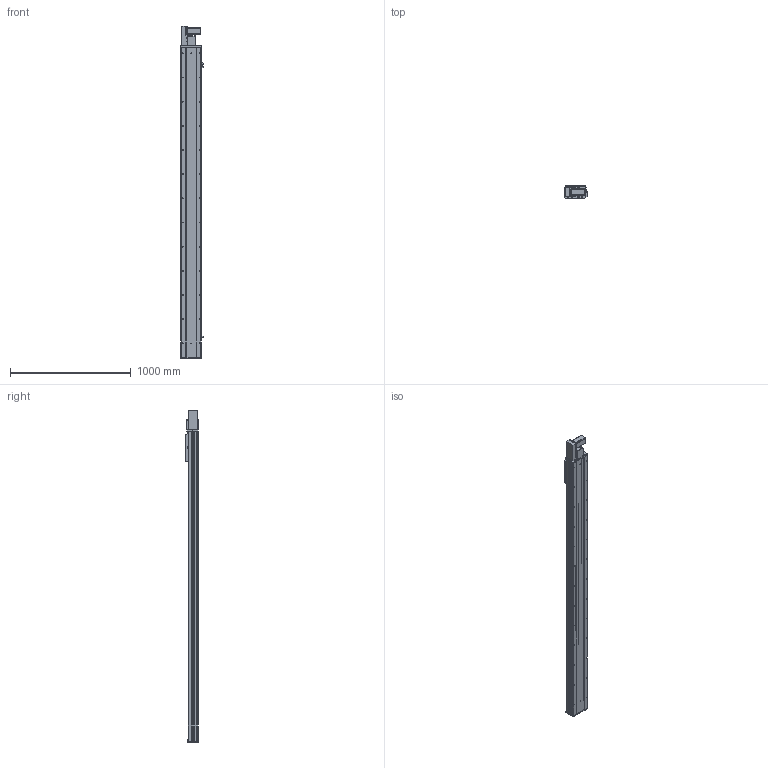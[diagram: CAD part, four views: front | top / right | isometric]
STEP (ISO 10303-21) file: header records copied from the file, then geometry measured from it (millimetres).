
FILE_DESCRIPTION (( 'STEP AP203' ), '1' );
FILE_NAME ('Y170CB-D105-S2250-BL-P400W.STEP', '2020-02-20T01:42:04', ( '微软用户' ), ( '微软中国' ), 'SwSTEP 2.0', 'SolidWorks 2017', '' );
FILE_SCHEMA (( 'CONFIG_CONTROL_DESIGN' ));
Length unit declared in the file: millimetre
Products named in the file (18): Y170CB-D105-S2250-BL-P400W; 70CB--耜裔; 17B-耜蚾蟀諉啣----; 70C-雄赽釱-奻-; 0B-萇儂楊擘啣; 0C--雄赽釱俋欶-170; san松下电机400不带刹车----; 70CB-詩湍--; Y70俋欶BR----; Y100-135俋离換覜ん--; 70CB-掛极-; Y170CB-陔俋离換覜結え---; --70CB --喘謫眊楊擘啣-; 70B喘謫眊----; 70CB-耜裔啣-; Y1埴倛裔; 70C--詩湍揤踡え-; B-源倛裔啣
Assembly tree (21 placements, depth 2):
  Y170CB-D105-S2250-BL-P400W
    B-源倛裔啣
    17B-耜蚾蟀諉啣----
    0B-萇儂楊擘啣
    san松下电机400不带刹车----
    Y70俋欶BR----
    70CB-掛极-
    --70CB --喘謫眊楊擘啣-
    70CB-耜裔啣-  x2
    70C--詩湍揤踡え-  x2
    70CB--耜裔
    70C-雄赽釱-奻-
    0C--雄赽釱俋欶-170
    70CB-詩湍--
    Y100-135俋离換覜ん--  x3
    Y170CB-陔俋离換覜結え---
    70B喘謫眊----
    Y1埴倛裔
Bounding box: 183.5 x 107 x 2747 mm (x, y, z)
Volume: 11459638.8 mm3; surface area: 4133082.9 mm2
Topology: 21 solids, 21 shells, 1055 faces, 2837 edges, 1882 vertices
Faces by surface type: cylinder 567, plane 464, cone 24
Entity records: 33780 total; most frequent: CARTESIAN_POINT 6216, DIRECTION 5494, ORIENTED_EDGE 5156, EDGE_CURVE 2578, AXIS2_PLACEMENT_3D 2024, VERTEX_POINT 1712, VECTOR 1446, LINE 1446
